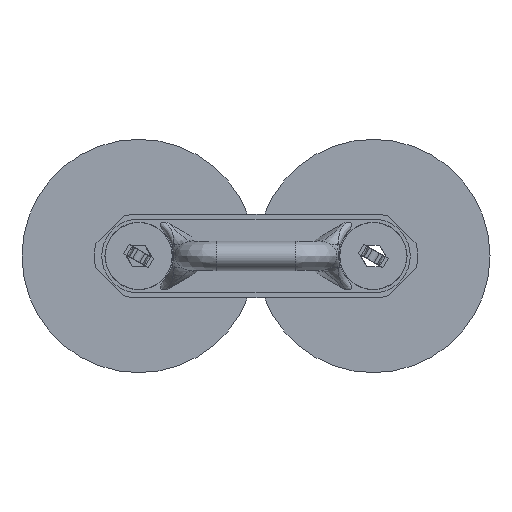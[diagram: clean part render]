
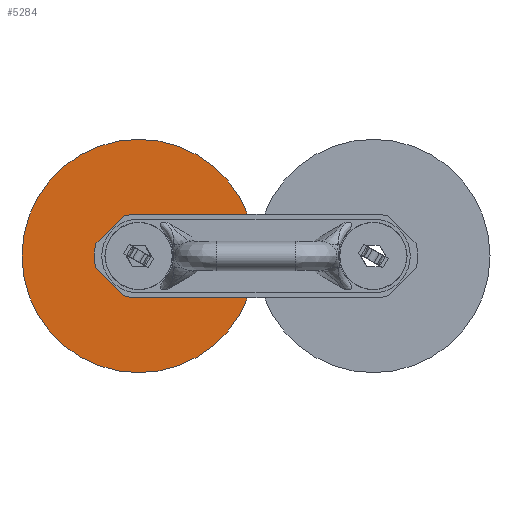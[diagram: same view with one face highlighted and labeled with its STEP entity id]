
A CAD part, left-side view. The second image highlights one B-rep face of the part: STEP entity #5284.
In plain terms, the highlighted planar face has unit normal (-1, 0, 0).
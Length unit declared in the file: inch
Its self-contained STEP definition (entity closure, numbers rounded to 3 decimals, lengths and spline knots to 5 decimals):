
#293=FACE_BOUND('',#1254,.T.);
#559=CIRCLE('',#6045,1.06299);
#560=CIRCLE('',#6047,3.91732);
#713=PLANE('',#6046);
#932=FACE_OUTER_BOUND('',#1253,.T.);
#1253=EDGE_LOOP('',(#4064));
#1254=EDGE_LOOP('',(#4065));
#2242=VERTEX_POINT('',#11504);
#2243=VERTEX_POINT('',#11508);
#2875=EDGE_CURVE('',#2242,#2242,#559,.T.);
#2876=EDGE_CURVE('',#2243,#2243,#560,.T.);
#4064=ORIENTED_EDGE('',*,*,#2876,.F.);
#4065=ORIENTED_EDGE('',*,*,#2875,.T.);
#5284=ADVANCED_FACE('',(#932,#293),#713,.T.);
#6045=AXIS2_PLACEMENT_3D('',#11506,#7328,#7329);
#6046=AXIS2_PLACEMENT_3D('',#11507,#7330,#7331);
#6047=AXIS2_PLACEMENT_3D('',#11509,#7332,#7333);
#7328=DIRECTION('center_axis',(1.,0.,0.));
#7329=DIRECTION('ref_axis',(0.,0.,-1.));
#7330=DIRECTION('center_axis',(-1.,0.,0.));
#7331=DIRECTION('ref_axis',(0.,0.,1.));
#7332=DIRECTION('center_axis',(1.,0.,0.));
#7333=DIRECTION('ref_axis',(0.,0.,-1.));
#11504=CARTESIAN_POINT('',(-1.33858,-1.06299,0.));
#11506=CARTESIAN_POINT('Origin',(-1.33858,0.,0.));
#11507=CARTESIAN_POINT('Origin',(-1.33858,3.91732,0.));
#11508=CARTESIAN_POINT('',(-1.33858,-3.91732,0.));
#11509=CARTESIAN_POINT('Origin',(-1.33858,0.,0.));
